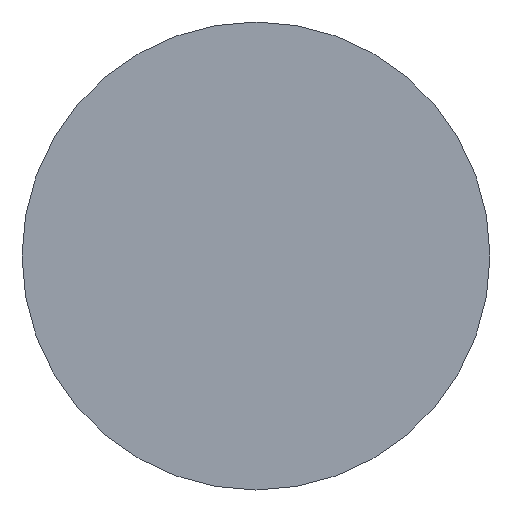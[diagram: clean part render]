
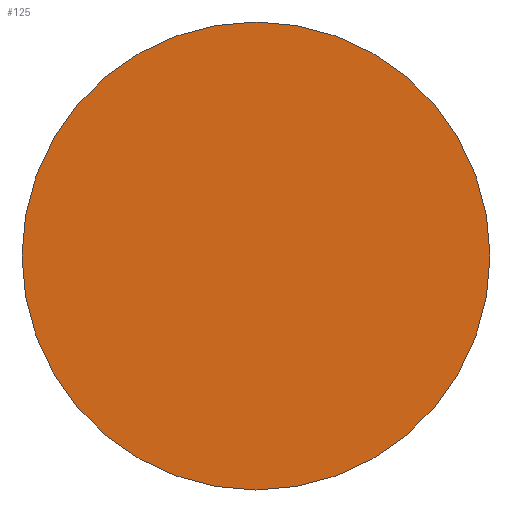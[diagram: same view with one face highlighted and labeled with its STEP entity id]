
A CAD part, left-side view. The second image highlights one B-rep face of the part: STEP entity #125.
In plain terms, the highlighted planar face has unit normal (-1, 0, 0).
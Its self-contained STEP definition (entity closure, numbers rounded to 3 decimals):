
#1 = EDGE_LOOP ( 'NONE', ( #44, #18 ) ) ;
#9 = CIRCLE ( 'NONE', #135, 5.5 ) ;
#11 = CIRCLE ( 'NONE', #129, 5.5 ) ;
#18 = ORIENTED_EDGE ( 'NONE', *, *, #138, .T. ) ;
#27 = FACE_OUTER_BOUND ( 'NONE', #1, .T. ) ;
#44 = ORIENTED_EDGE ( 'NONE', *, *, #131, .T. ) ;
#53 = AXIS2_PLACEMENT_3D ( 'NONE', #108, #106, #103 ) ;
#72 = DIRECTION ( 'NONE',  ( 0., 0., 1. ) ) ;
#73 = DIRECTION ( 'NONE',  ( -1., 0., 0. ) ) ;
#78 = CARTESIAN_POINT ( 'NONE',  ( -304.5, 0., 0. ) ) ;
#87 = DIRECTION ( 'NONE',  ( 0., 0., 1. ) ) ;
#88 = DIRECTION ( 'NONE',  ( -1., 0., 0. ) ) ;
#94 = CARTESIAN_POINT ( 'NONE',  ( -304.5, 0., 0. ) ) ;
#98 = VERTEX_POINT ( 'NONE', #112 ) ;
#103 = DIRECTION ( 'NONE',  ( 0., 0., 1. ) ) ;
#106 = DIRECTION ( 'NONE',  ( -1., 0., 0. ) ) ;
#107 = PLANE ( 'NONE',  #53 ) ;
#108 = CARTESIAN_POINT ( 'NONE',  ( -304.5, 0., 0. ) ) ;
#111 = CARTESIAN_POINT ( 'NONE',  ( -304.5, 0., -5.5 ) ) ;
#112 = CARTESIAN_POINT ( 'NONE',  ( -304.5, 0., 5.5 ) ) ;
#118 = VERTEX_POINT ( 'NONE', #111 ) ;
#125 = ADVANCED_FACE ( 'NONE', ( #27 ), #107, .T. ) ;
#129 = AXIS2_PLACEMENT_3D ( 'NONE', #78, #73, #72 ) ;
#131 = EDGE_CURVE ( 'NONE', #98, #118, #9, .T. ) ;
#135 = AXIS2_PLACEMENT_3D ( 'NONE', #94, #88, #87 ) ;
#138 = EDGE_CURVE ( 'NONE', #118, #98, #11, .T. ) ;
